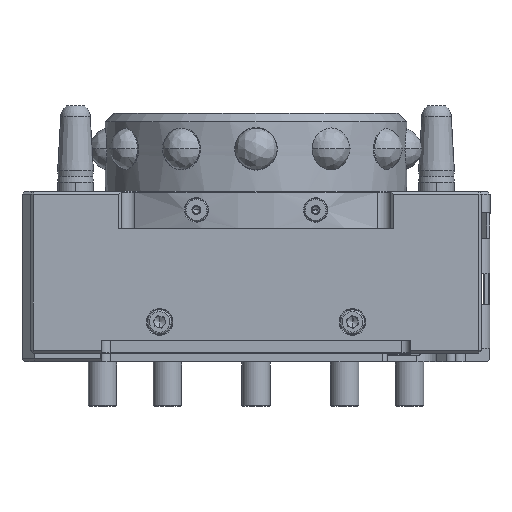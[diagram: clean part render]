
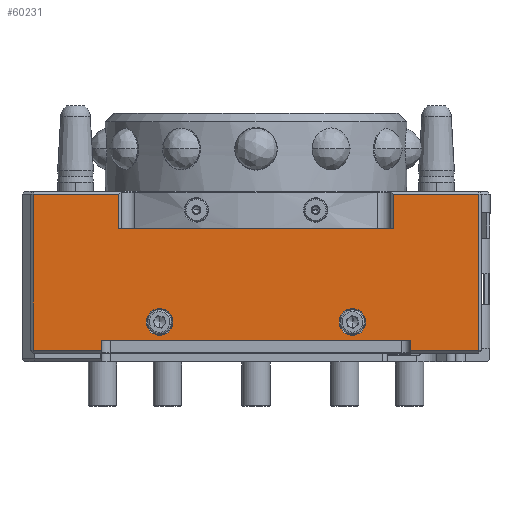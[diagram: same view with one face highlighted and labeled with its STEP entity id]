
A CAD part, front view. The second image highlights one B-rep face of the part: STEP entity #60231.
In plain terms, the highlighted planar face has unit normal (0, -1, 0).
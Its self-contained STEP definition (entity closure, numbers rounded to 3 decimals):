
#510 = VECTOR ( 'NONE', #16905, 1000. ) ;
#2098 = ORIENTED_EDGE ( 'NONE', *, *, #5862, .T. ) ;
#3398 = CIRCLE ( 'NONE', #55050, 4.7 ) ;
#3930 = CARTESIAN_POINT ( 'NONE',  ( -48.5, -114.3, -1. ) ) ;
#5853 = CARTESIAN_POINT ( 'NONE',  ( 79.5, -114.3, -56. ) ) ;
#5862 = EDGE_CURVE ( 'NONE', #6990, #96218, #28531, .T. ) ;
#6300 = LINE ( 'NONE', #18727, #85983 ) ;
#6990 = VERTEX_POINT ( 'NONE', #37578 ) ;
#7425 = CIRCLE ( 'NONE', #23367, 4.7 ) ;
#8889 = EDGE_CURVE ( 'NONE', #31742, #74894, #7425, .T. ) ;
#9050 = CARTESIAN_POINT ( 'NONE',  ( 79.5, -114.3, -52.5 ) ) ;
#9515 = EDGE_CURVE ( 'NONE', #74894, #31742, #18313, .T. ) ;
#10473 = VECTOR ( 'NONE', #78284, 1000. ) ;
#13106 = FACE_BOUND ( 'NONE', #72739, .T. ) ;
#14397 = EDGE_CURVE ( 'NONE', #52179, #73811, #35496, .T. ) ;
#15827 = ORIENTED_EDGE ( 'NONE', *, *, #80951, .T. ) ;
#16166 = CARTESIAN_POINT ( 'NONE',  ( 79.5, -114.3, -57. ) ) ;
#16905 = DIRECTION ( 'NONE',  ( 1., 0., 0. ) ) ;
#17990 = CARTESIAN_POINT ( 'NONE',  ( 54.5, -114.3, -57. ) ) ;
#18313 = CIRCLE ( 'NONE', #60965, 4.7 ) ;
#18587 = LINE ( 'NONE', #86319, #98023 ) ;
#18727 = CARTESIAN_POINT ( 'NONE',  ( 78.5, -114.3, -57. ) ) ;
#19142 = CARTESIAN_POINT ( 'NONE',  ( 34., -114.3, -46. ) ) ;
#19758 = AXIS2_PLACEMENT_3D ( 'NONE', #16166, #39688, #93256 ) ;
#20327 = DIRECTION ( 'NONE',  ( 0., 0., -1. ) ) ;
#20659 = CARTESIAN_POINT ( 'NONE',  ( -78.5, -114.3, -57. ) ) ;
#20845 = CARTESIAN_POINT ( 'NONE',  ( 34., -114.3, -50.7 ) ) ;
#21571 = DIRECTION ( 'NONE',  ( -1., 0., 0. ) ) ;
#22069 = VECTOR ( 'NONE', #21571, 1000. ) ;
#22415 = CARTESIAN_POINT ( 'NONE',  ( -78.5, -114.3, -56. ) ) ;
#23367 = AXIS2_PLACEMENT_3D ( 'NONE', #19142, #73121, #26978 ) ;
#24084 = DIRECTION ( 'NONE',  ( 0., 1., 0. ) ) ;
#25423 = CARTESIAN_POINT ( 'NONE',  ( 48.5, -114.3, -57. ) ) ;
#25459 = CARTESIAN_POINT ( 'NONE',  ( -34., -114.3, -46. ) ) ;
#25985 = CARTESIAN_POINT ( 'NONE',  ( 78.5, -114.3, -1. ) ) ;
#26122 = VECTOR ( 'NONE', #20327, 1000. ) ;
#26774 = CARTESIAN_POINT ( 'NONE',  ( -34., -114.3, -46. ) ) ;
#26978 = DIRECTION ( 'NONE',  ( 0., 0., -1. ) ) ;
#27549 = ORIENTED_EDGE ( 'NONE', *, *, #90784, .T. ) ;
#27688 = CARTESIAN_POINT ( 'NONE',  ( -54.5, -114.3, -52.5 ) ) ;
#28517 = ORIENTED_EDGE ( 'NONE', *, *, #91852, .T. ) ;
#28531 = LINE ( 'NONE', #20659, #26122 ) ;
#28556 = CARTESIAN_POINT ( 'NONE',  ( 48.5, -114.3, -1. ) ) ;
#29977 = EDGE_LOOP ( 'NONE', ( #66191, #82318 ) ) ;
#30612 = VECTOR ( 'NONE', #92690, 1000. ) ;
#31546 = CARTESIAN_POINT ( 'NONE',  ( 34., -114.3, -41.3 ) ) ;
#31742 = VERTEX_POINT ( 'NONE', #31546 ) ;
#33233 = DIRECTION ( 'NONE',  ( 0., 0., -1. ) ) ;
#33378 = EDGE_LOOP ( 'NONE', ( #28517, #76768, #27549, #37724, #88395, #95736, #2098, #48471, #62931, #15827, #49892, #64359 ) ) ;
#33784 = FACE_BOUND ( 'NONE', #29977, .T. ) ;
#33785 = EDGE_CURVE ( 'NONE', #60418, #84506, #90033, .T. ) ;
#34584 = DIRECTION ( 'NONE',  ( 0., 0., -1. ) ) ;
#35496 = LINE ( 'NONE', #61731, #53683 ) ;
#37578 = CARTESIAN_POINT ( 'NONE',  ( -78.5, -114.3, -1. ) ) ;
#37724 = ORIENTED_EDGE ( 'NONE', *, *, #70926, .T. ) ;
#39688 = DIRECTION ( 'NONE',  ( 0., -1., 0. ) ) ;
#40349 = LINE ( 'NONE', #5853, #22069 ) ;
#41131 = EDGE_CURVE ( 'NONE', #55645, #74767, #86516, .T. ) ;
#42565 = VECTOR ( 'NONE', #71996, 1000. ) ;
#48471 = ORIENTED_EDGE ( 'NONE', *, *, #92450, .F. ) ;
#49084 = DIRECTION ( 'NONE',  ( -1., 0., 0. ) ) ;
#49892 = ORIENTED_EDGE ( 'NONE', *, *, #86003, .T. ) ;
#49927 = CARTESIAN_POINT ( 'NONE',  ( 78.5, -114.3, -56. ) ) ;
#50022 = DIRECTION ( 'NONE',  ( 0., 0., 1. ) ) ;
#50455 = LINE ( 'NONE', #62787, #65978 ) ;
#50791 = CARTESIAN_POINT ( 'NONE',  ( 54.5, -114.3, -56. ) ) ;
#51323 = LINE ( 'NONE', #77290, #30612 ) ;
#52025 = FACE_OUTER_BOUND ( 'NONE', #33378, .T. ) ;
#52179 = VERTEX_POINT ( 'NONE', #25985 ) ;
#52819 = EDGE_CURVE ( 'NONE', #55718, #6990, #50455, .T. ) ;
#53376 = CARTESIAN_POINT ( 'NONE',  ( 48.5, -114.3, -13.2 ) ) ;
#53683 = VECTOR ( 'NONE', #69436, 1000. ) ;
#53808 = ORIENTED_EDGE ( 'NONE', *, *, #9515, .T. ) ;
#55050 = AXIS2_PLACEMENT_3D ( 'NONE', #26774, #80548, #34584 ) ;
#55612 = DIRECTION ( 'NONE',  ( -1., 0., 0. ) ) ;
#55622 = CARTESIAN_POINT ( 'NONE',  ( -54.5, -114.3, -57. ) ) ;
#55645 = VERTEX_POINT ( 'NONE', #49927 ) ;
#55718 = VERTEX_POINT ( 'NONE', #3930 ) ;
#60231 = ADVANCED_FACE ( 'NONE', ( #52025, #33784, #13106 ), #85539, .T. ) ;
#60391 = CIRCLE ( 'NONE', #83789, 4.7 ) ;
#60418 = VERTEX_POINT ( 'NONE', #65504 ) ;
#60965 = AXIS2_PLACEMENT_3D ( 'NONE', #70287, #24084, #77916 ) ;
#61731 = CARTESIAN_POINT ( 'NONE',  ( 0., -114.3, -1. ) ) ;
#62787 = CARTESIAN_POINT ( 'NONE',  ( 0., -114.3, -1. ) ) ;
#62931 = ORIENTED_EDGE ( 'NONE', *, *, #33785, .T. ) ;
#62933 = DIRECTION ( 'NONE',  ( 0., 0., -1. ) ) ;
#62985 = LINE ( 'NONE', #17990, #42565 ) ;
#63878 = VECTOR ( 'NONE', #49084, 1000. ) ;
#64359 = ORIENTED_EDGE ( 'NONE', *, *, #41131, .F. ) ;
#65504 = CARTESIAN_POINT ( 'NONE',  ( -54.5, -114.3, -56. ) ) ;
#65566 = CARTESIAN_POINT ( 'NONE',  ( -48.5, -114.3, -13.2 ) ) ;
#65978 = VECTOR ( 'NONE', #93518, 1000. ) ;
#66191 = ORIENTED_EDGE ( 'NONE', *, *, #74175, .T. ) ;
#66561 = EDGE_CURVE ( 'NONE', #72611, #72420, #60391, .T. ) ;
#67806 = VERTEX_POINT ( 'NONE', #53376 ) ;
#69436 = DIRECTION ( 'NONE',  ( -1., 0., 0. ) ) ;
#70287 = CARTESIAN_POINT ( 'NONE',  ( 34., -114.3, -46. ) ) ;
#70694 = LINE ( 'NONE', #25423, #90968 ) ;
#70926 = EDGE_CURVE ( 'NONE', #67806, #81134, #18587, .T. ) ;
#71996 = DIRECTION ( 'NONE',  ( 0., 0., -1. ) ) ;
#72420 = VERTEX_POINT ( 'NONE', #81122 ) ;
#72611 = VERTEX_POINT ( 'NONE', #76417 ) ;
#72739 = EDGE_LOOP ( 'NONE', ( #53808, #88594 ) ) ;
#73121 = DIRECTION ( 'NONE',  ( 0., 1., 0. ) ) ;
#73134 = LINE ( 'NONE', #9050, #510 ) ;
#73811 = VERTEX_POINT ( 'NONE', #28556 ) ;
#74175 = EDGE_CURVE ( 'NONE', #72420, #72611, #3398, .T. ) ;
#74767 = VERTEX_POINT ( 'NONE', #50791 ) ;
#74894 = VERTEX_POINT ( 'NONE', #20845 ) ;
#76417 = CARTESIAN_POINT ( 'NONE',  ( -34., -114.3, -41.3 ) ) ;
#76768 = ORIENTED_EDGE ( 'NONE', *, *, #14397, .T. ) ;
#77290 = CARTESIAN_POINT ( 'NONE',  ( -48.5, -114.3, -57. ) ) ;
#77916 = DIRECTION ( 'NONE',  ( 0., 0., -1. ) ) ;
#78284 = DIRECTION ( 'NONE',  ( 0., 0., 1. ) ) ;
#79248 = DIRECTION ( 'NONE',  ( 0., 1., 0. ) ) ;
#79379 = CARTESIAN_POINT ( 'NONE',  ( 79.5, -114.3, -56. ) ) ;
#80548 = DIRECTION ( 'NONE',  ( 0., 1., 0. ) ) ;
#80951 = EDGE_CURVE ( 'NONE', #84506, #81341, #73134, .T. ) ;
#81122 = CARTESIAN_POINT ( 'NONE',  ( -34., -114.3, -50.7 ) ) ;
#81134 = VERTEX_POINT ( 'NONE', #65566 ) ;
#81341 = VERTEX_POINT ( 'NONE', #83841 ) ;
#82318 = ORIENTED_EDGE ( 'NONE', *, *, #66561, .T. ) ;
#83573 = EDGE_CURVE ( 'NONE', #81134, #55718, #51323, .T. ) ;
#83789 = AXIS2_PLACEMENT_3D ( 'NONE', #25459, #79248, #33233 ) ;
#83841 = CARTESIAN_POINT ( 'NONE',  ( 54.5, -114.3, -52.5 ) ) ;
#84506 = VERTEX_POINT ( 'NONE', #27688 ) ;
#85539 = PLANE ( 'NONE',  #19758 ) ;
#85983 = VECTOR ( 'NONE', #50022, 1000. ) ;
#86003 = EDGE_CURVE ( 'NONE', #81341, #74767, #62985, .T. ) ;
#86319 = CARTESIAN_POINT ( 'NONE',  ( 79.5, -114.3, -13.2 ) ) ;
#86516 = LINE ( 'NONE', #79379, #63878 ) ;
#88395 = ORIENTED_EDGE ( 'NONE', *, *, #83573, .T. ) ;
#88594 = ORIENTED_EDGE ( 'NONE', *, *, #8889, .T. ) ;
#90033 = LINE ( 'NONE', #55622, #10473 ) ;
#90784 = EDGE_CURVE ( 'NONE', #73811, #67806, #70694, .T. ) ;
#90968 = VECTOR ( 'NONE', #62933, 1000. ) ;
#91852 = EDGE_CURVE ( 'NONE', #55645, #52179, #6300, .T. ) ;
#92450 = EDGE_CURVE ( 'NONE', #60418, #96218, #40349, .T. ) ;
#92690 = DIRECTION ( 'NONE',  ( 0., 0., 1. ) ) ;
#93256 = DIRECTION ( 'NONE',  ( 0., 0., -1. ) ) ;
#93518 = DIRECTION ( 'NONE',  ( -1., 0., 0. ) ) ;
#95736 = ORIENTED_EDGE ( 'NONE', *, *, #52819, .T. ) ;
#96218 = VERTEX_POINT ( 'NONE', #22415 ) ;
#98023 = VECTOR ( 'NONE', #55612, 1000. ) ;
